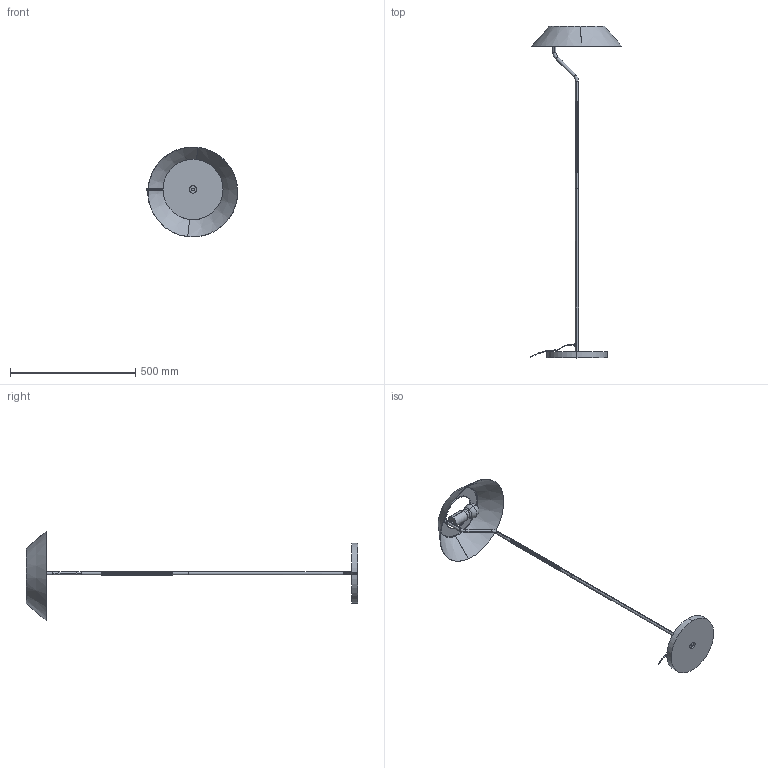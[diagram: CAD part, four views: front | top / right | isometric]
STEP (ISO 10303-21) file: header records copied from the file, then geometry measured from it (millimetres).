
FILE_DESCRIPTION (( 'STEP AP214' ), '1' );
FILE_NAME ('P1287_AIDER.STEP', '2024-01-24T14:52:49', ( '' ), ( '' ), 'SwSTEP 2.0', 'SolidWorks 2018', '' );
FILE_SCHEMA (( 'AUTOMOTIVE_DESIGN' ));
Length unit declared in the file: millimetre
Products named in the file (2): P1287_AIDER
Bounding box: 365.8 x 1325.99 x 359.35 mm (x, y, z)
Volume: 1532274 mm3; surface area: 473768 mm2
Topology: 12 solids, 12 shells, 422 faces, 1124 edges, 728 vertices
Faces by surface type: cylinder 300, torus 44, plane 43, cone 18, bspline 13, sphere 4
Entity records: 33816 total; most frequent: CARTESIAN_POINT 19846, ORIENTED_EDGE 2242, DIRECTION 1646, EDGE_CURVE 1121, VERTEX_POINT 727, AXIS2_PLACEMENT_3D 648, EDGE_LOOP 456, UNCERTAINTY_MEASURE_WITH_UNIT 436
